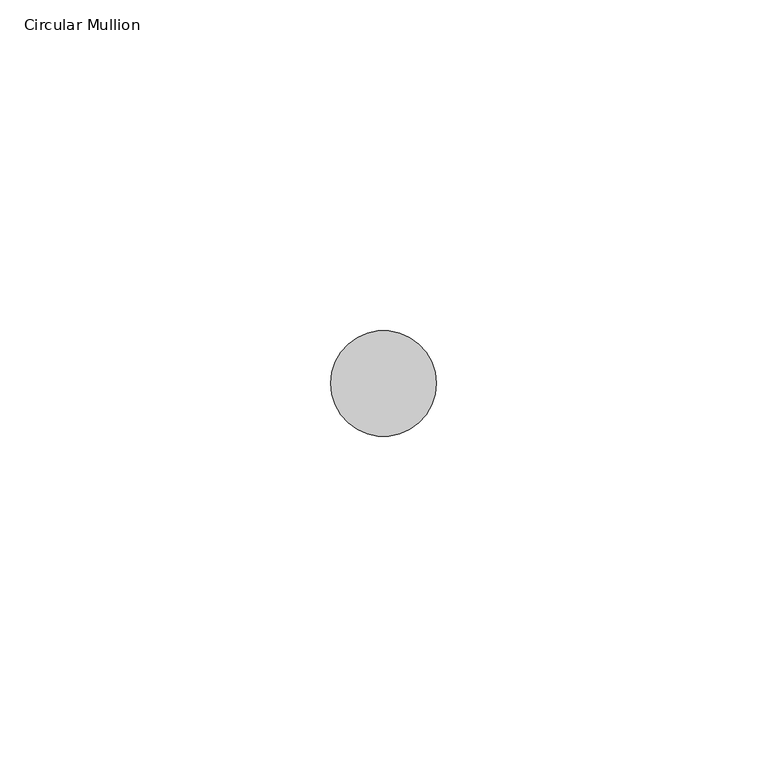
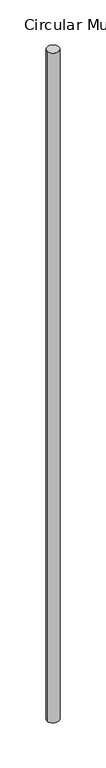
"""IFC4 building model written with IfcOpenShell, lengths in millimetres: member geometry, Circular Mullion : ARQ_HERR_16mm."""

from ifc_helpers import new_model, si_unit, point, frame, origin, origin_2d, place, context, project, spatial, circle_curve, trimmed, segment, composite_curve, outline, extrude, source, transform, mapped, element, save


def circular_mullion_14d4c897(model_context):
    return source(origin(), model_context, "Body", "SweptSolid", [
        extrude(outline(composite_curve([segment(trimmed(circle_curve(origin_2d(), 8.0), [point((8.0, 0.0))], [point((-8.0, 0.0))], False, "CARTESIAN"), True, "CONTINUOUS"), segment(trimmed(circle_curve(origin_2d(), 8.0), [point((-8.0, 0.0))], [point((8.0, 0.0))], False, "CARTESIAN"), True, "CONTINUOUS")], self_intersect=False)), frame((0.0, 0.0, -936.1858164), z_axis=(0.0, 0.0, 1.0), x_axis=(1.0, 0.0, 0.0)), (0.0, 0.0, 1.0), 936.1858164),
    ])


if __name__ == "__main__":
    model = new_model("IFC4")
    model_context = context("Model", 3, world=origin())
    ifc_project = project(units=[si_unit("LENGTHUNIT", "METRE", prefix="MILLI")], contexts=[model_context])
    site = spatial("IfcSite", under=ifc_project)
    building = spatial("IfcBuilding", under=site)
    placement = place(None, origin())
    circular_mullion_shape = circular_mullion_14d4c897(model_context)
    element("IfcMember", 1, ObjectType="Circular Mullion : ARQ_HERR_16mm", at=placement, inside=building, context=model_context, shape_type="MappedRepresentation", body=[
        mapped(circular_mullion_shape, transform((0.0, 0.0, 0.0), x_axis=(1.0, 0.0, 0.0), y_axis=(0.0, 1.0, 0.0), z_axis=(0.0, 0.0, 1.0))),
    ])
    save(model, "model.ifc")
